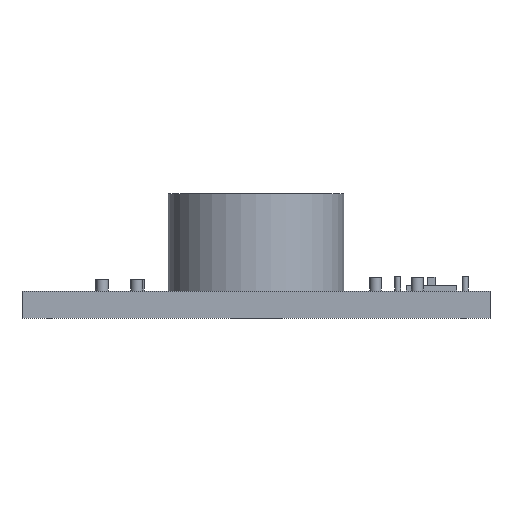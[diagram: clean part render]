
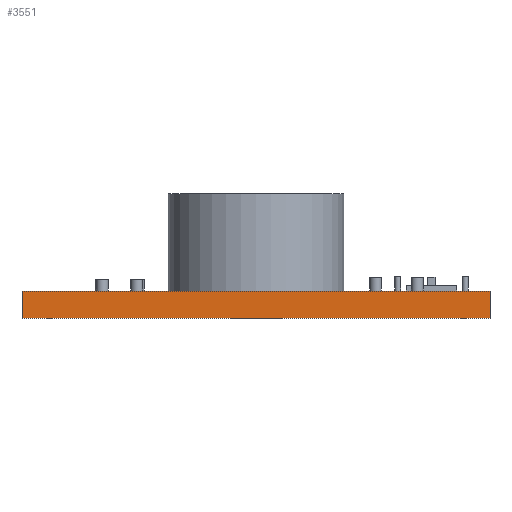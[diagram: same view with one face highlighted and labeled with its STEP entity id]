
A CAD part, left-side view. The second image highlights one B-rep face of the part: STEP entity #3551.
In plain terms, the highlighted planar face has unit normal (-1, 0, 0).
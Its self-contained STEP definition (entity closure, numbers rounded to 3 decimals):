
#1550 = PLANE('',#1551);
#1551 = AXIS2_PLACEMENT_3D('',#1552,#1553,#1554);
#1552 = CARTESIAN_POINT('',(-120.,-120.,14.));
#1553 = DIRECTION('',(0.,0.,1.));
#1554 = DIRECTION('',(1.,0.,0.));
#2079 = EDGE_CURVE('',#2080,#2082,#2084,.T.);
#2080 = VERTEX_POINT('',#2081);
#2081 = CARTESIAN_POINT('',(-120.,-120.,14.));
#2082 = VERTEX_POINT('',#2083);
#2083 = CARTESIAN_POINT('',(-120.,120.,14.));
#2084 = SURFACE_CURVE('',#2085,(#2089,#2096),.PCURVE_S1.);
#2085 = LINE('',#2086,#2087);
#2086 = CARTESIAN_POINT('',(-120.,-120.,14.));
#2087 = VECTOR('',#2088,1.);
#2088 = DIRECTION('',(0.,1.,0.));
#2089 = PCURVE('',#1550,#2090);
#2090 = DEFINITIONAL_REPRESENTATION('',(#2091),#2095);
#2091 = LINE('',#2092,#2093);
#2092 = CARTESIAN_POINT('',(0.,0.));
#2093 = VECTOR('',#2094,1.);
#2094 = DIRECTION('',(0.,1.));
#2095 = ( GEOMETRIC_REPRESENTATION_CONTEXT(2) 
PARAMETRIC_REPRESENTATION_CONTEXT() REPRESENTATION_CONTEXT('2D SPACE',''
  ) );
#2096 = PCURVE('',#2097,#2102);
#2097 = PLANE('',#2098);
#2098 = AXIS2_PLACEMENT_3D('',#2099,#2100,#2101);
#2099 = CARTESIAN_POINT('',(-120.,-120.,0.));
#2100 = DIRECTION('',(1.,0.,0.));
#2101 = DIRECTION('',(0.,0.,1.));
#2102 = DEFINITIONAL_REPRESENTATION('',(#2103),#2107);
#2103 = LINE('',#2104,#2105);
#2104 = CARTESIAN_POINT('',(14.,0.));
#2105 = VECTOR('',#2106,1.);
#2106 = DIRECTION('',(0.,-1.));
#2107 = ( GEOMETRIC_REPRESENTATION_CONTEXT(2) 
PARAMETRIC_REPRESENTATION_CONTEXT() REPRESENTATION_CONTEXT('2D SPACE',''
  ) );
#2125 = PLANE('',#2126);
#2126 = AXIS2_PLACEMENT_3D('',#2127,#2128,#2129);
#2127 = CARTESIAN_POINT('',(-120.,-120.,0.));
#2128 = DIRECTION('',(0.,1.,0.));
#2129 = DIRECTION('',(0.,0.,1.));
#2179 = PLANE('',#2180);
#2180 = AXIS2_PLACEMENT_3D('',#2181,#2182,#2183);
#2181 = CARTESIAN_POINT('',(-120.,120.,0.));
#2182 = DIRECTION('',(0.,1.,0.));
#2183 = DIRECTION('',(0.,0.,1.));
#3551 = ADVANCED_FACE('',(#3552),#2097,.F.);
#3552 = FACE_BOUND('',#3553,.F.);
#3553 = EDGE_LOOP('',(#3554,#3577,#3605,#3626));
#3554 = ORIENTED_EDGE('',*,*,#3555,.F.);
#3555 = EDGE_CURVE('',#3556,#2080,#3558,.T.);
#3556 = VERTEX_POINT('',#3557);
#3557 = CARTESIAN_POINT('',(-120.,-120.,0.));
#3558 = SURFACE_CURVE('',#3559,(#3563,#3570),.PCURVE_S1.);
#3559 = LINE('',#3560,#3561);
#3560 = CARTESIAN_POINT('',(-120.,-120.,0.));
#3561 = VECTOR('',#3562,1.);
#3562 = DIRECTION('',(0.,0.,1.));
#3563 = PCURVE('',#2097,#3564);
#3564 = DEFINITIONAL_REPRESENTATION('',(#3565),#3569);
#3565 = LINE('',#3566,#3567);
#3566 = CARTESIAN_POINT('',(0.,0.));
#3567 = VECTOR('',#3568,1.);
#3568 = DIRECTION('',(1.,0.));
#3569 = ( GEOMETRIC_REPRESENTATION_CONTEXT(2) 
PARAMETRIC_REPRESENTATION_CONTEXT() REPRESENTATION_CONTEXT('2D SPACE',''
  ) );
#3570 = PCURVE('',#2125,#3571);
#3571 = DEFINITIONAL_REPRESENTATION('',(#3572),#3576);
#3572 = LINE('',#3573,#3574);
#3573 = CARTESIAN_POINT('',(0.,0.));
#3574 = VECTOR('',#3575,1.);
#3575 = DIRECTION('',(1.,0.));
#3576 = ( GEOMETRIC_REPRESENTATION_CONTEXT(2) 
PARAMETRIC_REPRESENTATION_CONTEXT() REPRESENTATION_CONTEXT('2D SPACE',''
  ) );
#3577 = ORIENTED_EDGE('',*,*,#3578,.T.);
#3578 = EDGE_CURVE('',#3556,#3579,#3581,.T.);
#3579 = VERTEX_POINT('',#3580);
#3580 = CARTESIAN_POINT('',(-120.,120.,0.));
#3581 = SURFACE_CURVE('',#3582,(#3586,#3593),.PCURVE_S1.);
#3582 = LINE('',#3583,#3584);
#3583 = CARTESIAN_POINT('',(-120.,-120.,0.));
#3584 = VECTOR('',#3585,1.);
#3585 = DIRECTION('',(0.,1.,0.));
#3586 = PCURVE('',#2097,#3587);
#3587 = DEFINITIONAL_REPRESENTATION('',(#3588),#3592);
#3588 = LINE('',#3589,#3590);
#3589 = CARTESIAN_POINT('',(0.,0.));
#3590 = VECTOR('',#3591,1.);
#3591 = DIRECTION('',(0.,-1.));
#3592 = ( GEOMETRIC_REPRESENTATION_CONTEXT(2) 
PARAMETRIC_REPRESENTATION_CONTEXT() REPRESENTATION_CONTEXT('2D SPACE',''
  ) );
#3593 = PCURVE('',#3594,#3599);
#3594 = PLANE('',#3595);
#3595 = AXIS2_PLACEMENT_3D('',#3596,#3597,#3598);
#3596 = CARTESIAN_POINT('',(-120.,-120.,0.));
#3597 = DIRECTION('',(0.,0.,1.));
#3598 = DIRECTION('',(1.,0.,0.));
#3599 = DEFINITIONAL_REPRESENTATION('',(#3600),#3604);
#3600 = LINE('',#3601,#3602);
#3601 = CARTESIAN_POINT('',(0.,0.));
#3602 = VECTOR('',#3603,1.);
#3603 = DIRECTION('',(0.,1.));
#3604 = ( GEOMETRIC_REPRESENTATION_CONTEXT(2) 
PARAMETRIC_REPRESENTATION_CONTEXT() REPRESENTATION_CONTEXT('2D SPACE',''
  ) );
#3605 = ORIENTED_EDGE('',*,*,#3606,.T.);
#3606 = EDGE_CURVE('',#3579,#2082,#3607,.T.);
#3607 = SURFACE_CURVE('',#3608,(#3612,#3619),.PCURVE_S1.);
#3608 = LINE('',#3609,#3610);
#3609 = CARTESIAN_POINT('',(-120.,120.,0.));
#3610 = VECTOR('',#3611,1.);
#3611 = DIRECTION('',(0.,0.,1.));
#3612 = PCURVE('',#2097,#3613);
#3613 = DEFINITIONAL_REPRESENTATION('',(#3614),#3618);
#3614 = LINE('',#3615,#3616);
#3615 = CARTESIAN_POINT('',(0.,-240.));
#3616 = VECTOR('',#3617,1.);
#3617 = DIRECTION('',(1.,0.));
#3618 = ( GEOMETRIC_REPRESENTATION_CONTEXT(2) 
PARAMETRIC_REPRESENTATION_CONTEXT() REPRESENTATION_CONTEXT('2D SPACE',''
  ) );
#3619 = PCURVE('',#2179,#3620);
#3620 = DEFINITIONAL_REPRESENTATION('',(#3621),#3625);
#3621 = LINE('',#3622,#3623);
#3622 = CARTESIAN_POINT('',(0.,0.));
#3623 = VECTOR('',#3624,1.);
#3624 = DIRECTION('',(1.,0.));
#3625 = ( GEOMETRIC_REPRESENTATION_CONTEXT(2) 
PARAMETRIC_REPRESENTATION_CONTEXT() REPRESENTATION_CONTEXT('2D SPACE',''
  ) );
#3626 = ORIENTED_EDGE('',*,*,#2079,.F.);
